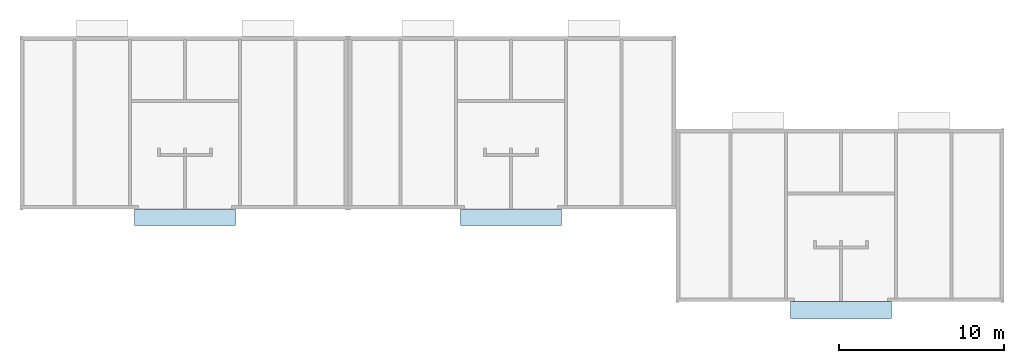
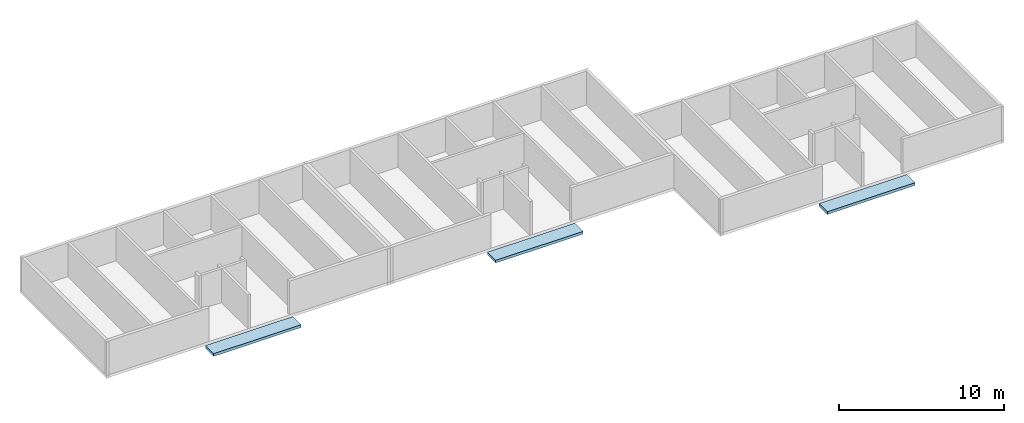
# One storey, part 1 of 10: 3 slabs.
"""IFC2X3 building model written with IfcOpenShell, lengths in metres."""

from ifc_helpers import new_model, si_unit, frame, frame_2d, origin, origin_with_axes, place, context, project, spatial, rectangle, extrude, element, save


model = new_model("IFC2X3")

# Units and contexts
model_context = context("Model", 3, precision=1e-06, world=origin())
ifc_project = project(units=[si_unit("LENGTHUNIT", "METRE"), si_unit("PLANEANGLEUNIT", "RADIAN")], contexts=[model_context])

# Site, building, storey
site = spatial("IfcSite", under=ifc_project, CompositionType="ELEMENT")
building = spatial("IfcBuilding", under=site, CompositionType="ELEMENT")
storey = spatial("IfcBuildingStorey", under=building, Name="r+1", CompositionType="ELEMENT", Elevation=2.7)

# Slabs
placement = place(None, origin())
slab_1_placement = place(placement, frame((26.655000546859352, -0.979836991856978, 2.3), z_axis=(0.0, 0.0, 1.0), x_axis=(1.0, 0.0, 0.0)))
element("IfcSlab", 1, at=slab_1_placement, inside=storey, PredefinedType="USERDEFINED", context=model_context, shape_type="SweptSolid", body=[
    extrude(rectangle(XDim=6.11999945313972, YDim=0.999914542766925, at=frame_2d((3.05999972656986, 0.499957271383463), x_axis=(1.0, 0.0)), kind="CURVE"), origin_with_axes(), (0.0, 0.0, 1.0), 0.2),
])
slab_2_placement = place(placement, frame((46.62499999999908, -6.579922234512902, 2.3), z_axis=(0.0, 0.0, 1.0), x_axis=(1.0, 0.0, 0.0)))
element("IfcSlab", 2, at=slab_2_placement, inside=storey, PredefinedType="USERDEFINED", context=model_context, shape_type="SweptSolid", body=[
    extrude(rectangle(XDim=6.120000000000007, YDim=1.000085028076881, at=frame_2d((3.060000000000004, 0.500042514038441), x_axis=(1.0, 0.0)), kind="CURVE"), origin_with_axes(), (0.0, 0.0, 1.0), 0.2),
])
slab_3_placement = place(placement, frame((6.925, -0.979922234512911, 2.3), z_axis=(0.0, 0.0, 1.0), x_axis=(1.0, 0.0, 0.0)))
element("IfcSlab", 3, at=slab_3_placement, inside=storey, PredefinedType="USERDEFINED", context=model_context, shape_type="SweptSolid", body=[
    extrude(rectangle(XDim=6.120000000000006, YDim=1.000085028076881, at=frame_2d((3.060000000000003, 0.500042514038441), x_axis=(1.0, 0.0)), kind="CURVE"), origin_with_axes(), (0.0, 0.0, 1.0), 0.2),
])

save(model, "model.ifc")
